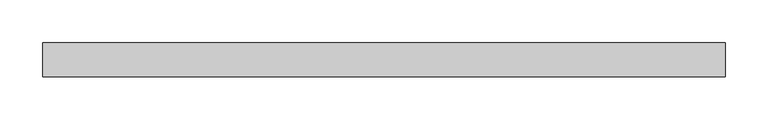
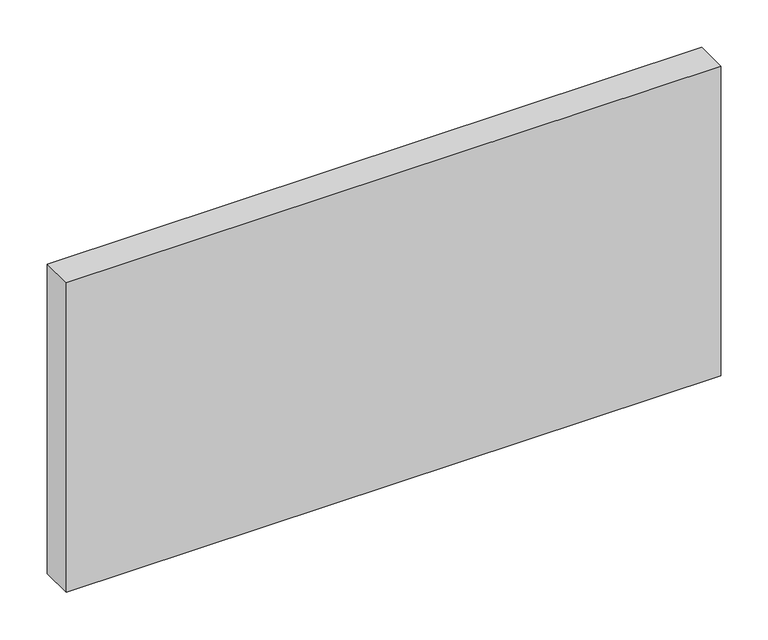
"""IFC4 building model written with IfcOpenShell, lengths in millimetres: plate geometry, Panneau système : Vitre 4cm."""

from ifc_helpers import new_model, si_unit, origin, origin_with_axes, place, context, project, spatial, polyline, outline, extrude, source, transform, mapped, element, save


def plate_608b5a92(model_context):
    return source(origin(), model_context, "Body", "SweptSolid", [
        extrude(outline(polyline([(400.0, -20.0), (-400.0, -20.0), (-400.0, 20.0), (400.0, 20.0), (400.0, -20.0)])), origin_with_axes(), (0.0, 0.0, 1.0), 400.0),
    ])


if __name__ == "__main__":
    model = new_model("IFC4")
    model_context = context("Model", 3, world=origin())
    ifc_project = project(units=[si_unit("LENGTHUNIT", "METRE", prefix="MILLI")], contexts=[model_context])
    site = spatial("IfcSite", under=ifc_project)
    building = spatial("IfcBuilding", under=site)
    placement = place(None, origin())
    plate_shape = plate_608b5a92(model_context)
    element("IfcPlate", 1, ObjectType="Panneau système : Vitre 4cm", at=placement, inside=building, context=model_context, shape_type="MappedRepresentation", body=[
        mapped(plate_shape, transform((0.0, 0.0, 0.0), x_axis=(1.0, 0.0, 0.0), y_axis=(0.0, 1.0, 0.0), z_axis=(0.0, 0.0, 1.0))),
    ])
    save(model, "model.ifc")
